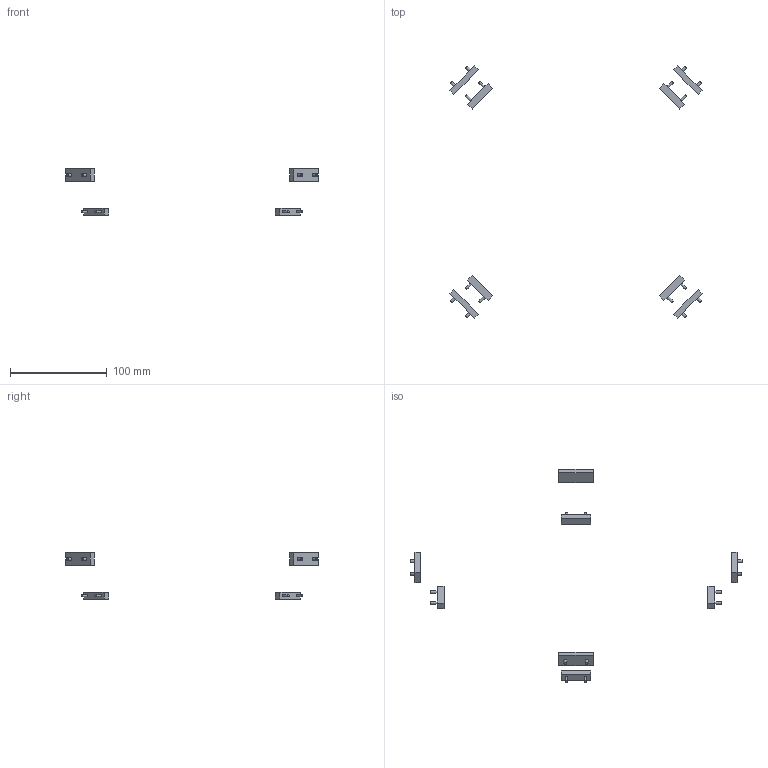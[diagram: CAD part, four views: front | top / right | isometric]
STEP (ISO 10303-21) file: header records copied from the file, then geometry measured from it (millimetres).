
FILE_DESCRIPTION(('FreeCAD Model'),'2;1');
FILE_NAME('Open CASCADE Shape Model','2026-10-27T13:49:51',('FreeCAD'),( 'FreeCAD'),'Open CASCADE STEP processor 7.8','FreeCAD','Unknown');
FILE_SCHEMA(('AUTOMOTIVE_DESIGN { 1 0 10303 214 1 1 1 1 }'));
Length unit declared in the file: millimetre
Products named in the file (1): Open CASCADE STEP translator 7.8 1
Bounding box: 261.06 x 261.06 x 48.1 mm (x, y, z)
Volume: 17498.4 mm3; surface area: 10662.5 mm2
Topology: 8 solids, 8 shells, 80 faces, 144 edges, 96 vertices
Faces by surface type: plane 64, cylinder 16
Full cylindrical faces by diameter (mm): 2.4 x8, 3 x8
Entity records: 1936 total; most frequent: DIRECTION 338, CARTESIAN_POINT 321, ORIENTED_EDGE 288, EDGE_CURVE 144, AXIS2_PLACEMENT_3D 113, LINE 112, VECTOR 112, FACE_BOUND 96
